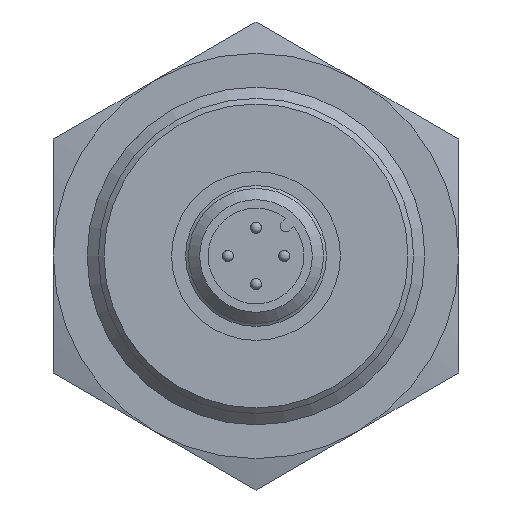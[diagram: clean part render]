
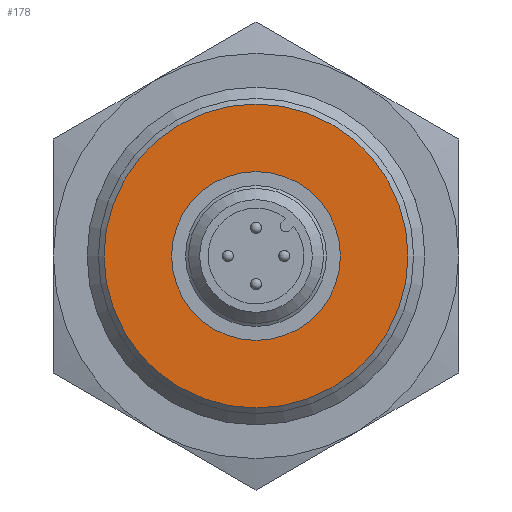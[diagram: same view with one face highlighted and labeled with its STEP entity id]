
A CAD part, front view. The second image highlights one B-rep face of the part: STEP entity #178.
In plain terms, the highlighted planar face has unit normal (0, -1, 0).
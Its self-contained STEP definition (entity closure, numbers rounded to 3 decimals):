
#62=PLANE('',#1054);
#178=ADVANCED_FACE('',(#264,#265),#62,.T.);
#264=FACE_BOUND('',#315,.T.);
#265=FACE_BOUND('',#316,.T.);
#315=EDGE_LOOP('',(#516));
#316=EDGE_LOOP('',(#517));
#409=CIRCLE('',#1052,7.25);
#410=CIRCLE('',#1053,13.5);
#516=ORIENTED_EDGE('',*,*,#854,.F.);
#517=ORIENTED_EDGE('',*,*,#855,.T.);
#761=VERTEX_POINT('',#1511);
#762=VERTEX_POINT('',#1513);
#854=EDGE_CURVE('',#761,#761,#409,.T.);
#855=EDGE_CURVE('',#762,#762,#410,.T.);
#1052=AXIS2_PLACEMENT_3D('',#1510,#1205,#1206);
#1053=AXIS2_PLACEMENT_3D('',#1512,#1207,#1208);
#1054=AXIS2_PLACEMENT_3D('',#1514,#1209,#1210);
#1205=DIRECTION('',(0.,-1.,0.));
#1206=DIRECTION('',(1.,0.,0.));
#1207=DIRECTION('',(0.,-1.,0.));
#1208=DIRECTION('',(1.,0.,0.));
#1209=DIRECTION('',(0.,-1.,0.));
#1210=DIRECTION('',(1.,0.,0.));
#1510=CARTESIAN_POINT('',(0.,-44.,0.));
#1511=CARTESIAN_POINT('',(7.25,-44.,0.));
#1512=CARTESIAN_POINT('',(0.,-44.,0.));
#1513=CARTESIAN_POINT('',(13.5,-44.,0.));
#1514=CARTESIAN_POINT('',(-6.,-44.,0.));
